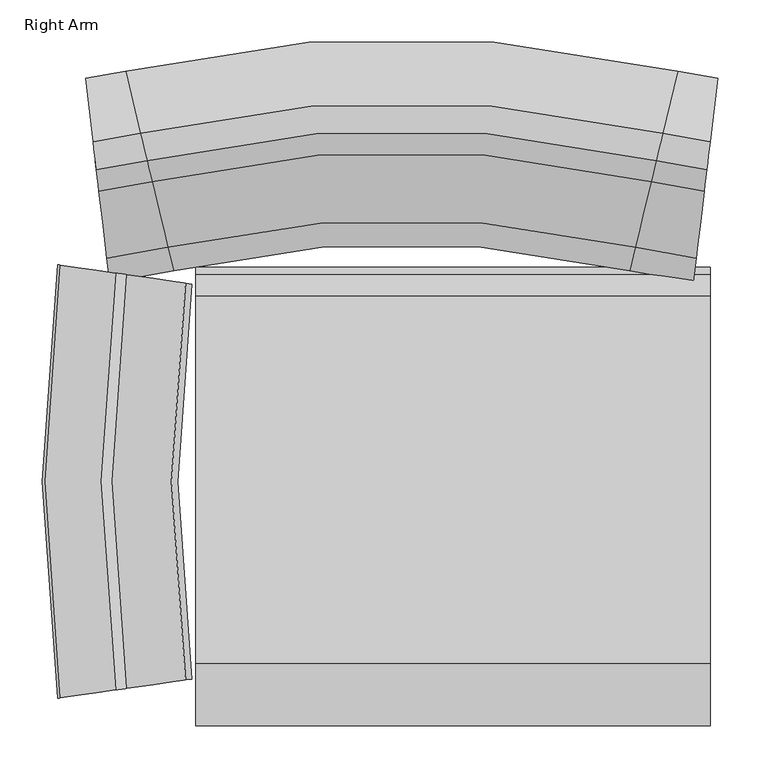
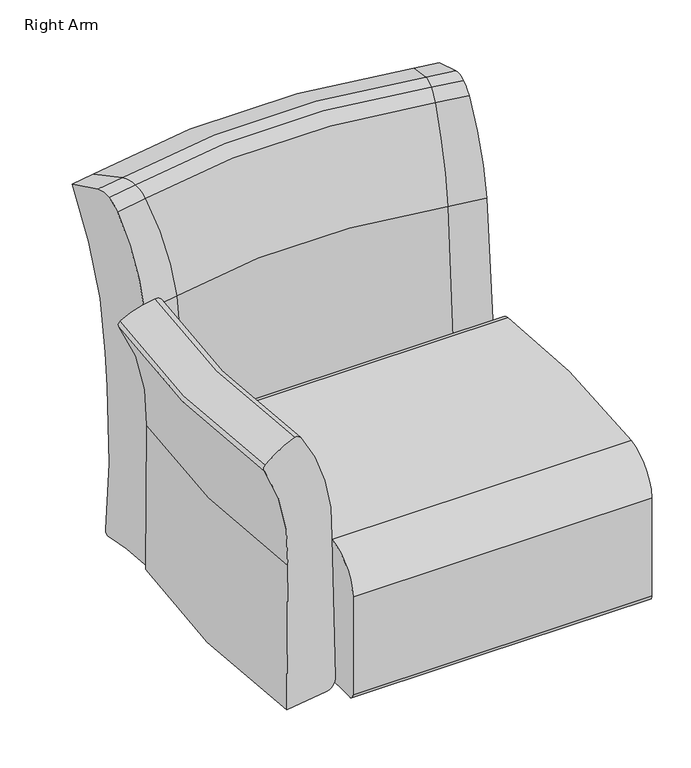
"""IFC4 building model written with IfcOpenShell, lengths in millimetres: furniture geometry, Steelcase Turnstone - Jenny - Seating - Lounge Chair : Right Arm."""

from ifc_helpers import new_model, si_unit, point, frame, frame_2d, origin, place, context, project, spatial, circle_curve, ellipse_curve, trimmed, segment, composite_curve, outline, extrude, source, transform, mapped, element, save
from ifc_brep_helpers import plane_surface, revolved_surface, advanced_brep


def right_arm_f7dc56e4(model_context):
    return source(origin(), model_context, "Body", "SolidModel", [
        advanced_brep(
        [(-292.7898126, 42.3528445, 662.4789574), (-358.2713356, 32.9674199, 631.6323761), (-360.5690311, 32.6380926, 620.5062548), (-308.2034318, 40.1436204, 393.5179242), (-310.4441561, 39.8224588, 83.0261095), (-223.20915, 52.3257962, 83.0261095), (-202.848241, 55.2441122, 105.3934367), (-210.1779101, 54.1935554, 412.3486316), (-279.7619287, 44.2201227, 657.247673), (-292.7898126, 536.0945997, 662.4789574), (-279.7619287, 534.2273214, 657.247673), (-210.1779101, 524.2538887, 412.3486316), (-202.848241, 523.203332, 105.3934367), (-223.20915, 526.121648, 83.0261095), (-310.4441561, 538.6249854, 83.0261095), (-308.2034318, 538.3038238, 393.5179242), (-360.5690311, 545.8093515, 620.5062548), (-358.2713356, 545.4800243, 631.6323761)],
        [
            (0, 1, circle_curve(frame((-256.1943064, 47.5980549, 496.8440116), z_axis=(0.1418794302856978, -0.9898839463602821, 0.0), x_axis=(-0.9898839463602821, -0.1418794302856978, 0.0)), 169.710573)),
            (1, 2, circle_curve(frame((-353.0400293, 33.7172196, 624.7246592), z_axis=(0.1418794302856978, -0.9898839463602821, 0.0), x_axis=(-0.9898839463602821, -0.1418794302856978, 0.0)), 8.6974317)),
            (2, 3, circle_curve(frame((-728.9183733, -20.157182, 414.1247817), z_axis=(-0.1418794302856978, 0.9898839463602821, 0.0), x_axis=(-0.9898839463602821, -0.1418794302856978, 0.0)), 425.5136794)),
            (3, 4, circle_curve(frame((3422.4667903, 574.8581873, 210.7875713), z_axis=(0.1418794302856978, -0.9898839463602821, 0.0), x_axis=(-0.9898839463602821, -0.1418794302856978, 0.0)), 3773.2228077)),
            (4, 5),
            (5, 6, circle_curve(frame((-223.20915, 52.3257962, 103.6673891), z_axis=(0.1418794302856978, -0.9898839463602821, 0.0), x_axis=(-0.9898839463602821, -0.1418794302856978, 0.0)), 20.6412796)),
            (6, 7, circle_curve(frame((2339.505101, 419.6379839, 320.9153954), z_axis=(-0.1418794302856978, 0.9898839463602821, 0.0), x_axis=(-0.9898839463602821, -0.1418794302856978, 0.0)), 2577.3616595)),
            (7, 8, circle_curve(frame((-616.9474144, -4.1084564, 426.9356418), z_axis=(0.1418794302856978, -0.9898839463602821, 0.0), x_axis=(-0.9898839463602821, -0.1418794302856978, 0.0)), 411.1852807)),
            (8, 0, circle_curve(frame((-290.0772968, 42.7416276, 650.2018378), z_axis=(0.1418794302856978, -0.9898839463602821, 0.0), x_axis=(-0.9898839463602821, -0.1418794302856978, 0.0)), 12.5792115)),
            (9, 10, circle_curve(frame((-290.0772968, 535.7058165, 650.2018378), z_axis=(0.1418794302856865, 0.9898839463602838, 0.0), x_axis=(-0.9898839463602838, 0.1418794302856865, 0.0)), 12.5792115)),
            (10, 11, circle_curve(frame((-616.9474144, 582.5559005, 426.9356418), z_axis=(0.1418794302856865, 0.9898839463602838, 0.0), x_axis=(-0.9898839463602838, 0.1418794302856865, 0.0)), 411.1852807)),
            (11, 12, circle_curve(frame((2339.505101, 158.8094603, 320.9153954), z_axis=(-0.1418794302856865, -0.9898839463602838, 0.0), x_axis=(-0.9898839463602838, 0.1418794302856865, 0.0)), 2577.3616595)),
            (12, 13, circle_curve(frame((-223.20915, 526.121648, 103.6673891), z_axis=(0.1418794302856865, 0.9898839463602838, 0.0), x_axis=(-0.9898839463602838, 0.1418794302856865, 0.0)), 20.6412796)),
            (13, 14),
            (14, 15, circle_curve(frame((3422.4667903, 3.5892569, 210.7875713), z_axis=(0.1418794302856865, 0.9898839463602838, 0.0), x_axis=(-0.9898839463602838, 0.1418794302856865, 0.0)), 3773.2228077)),
            (15, 16, circle_curve(frame((-728.9183733, 598.6046262, 414.1247817), z_axis=(-0.1418794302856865, -0.9898839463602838, 0.0), x_axis=(-0.9898839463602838, 0.1418794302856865, 0.0)), 425.5136794)),
            (16, 17, circle_curve(frame((-353.0400293, 544.7302245, 624.7246592), z_axis=(0.1418794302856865, 0.9898839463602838, 0.0), x_axis=(-0.9898839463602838, 0.1418794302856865, 0.0)), 8.6974317)),
            (17, 9, circle_curve(frame((-256.1943064, 530.8493893, 496.8440116), z_axis=(0.1418794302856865, 0.9898839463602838, 0.0), x_axis=(-0.9898839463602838, 0.1418794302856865, 0.0)), 169.710573)),
            (17, 1, circle_curve(frame((1429.6129209, 289.2237221, 631.6323761), z_axis=(0.0, 0.0, 1.0), x_axis=(-0.9898839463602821, -0.1418794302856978, 0.0)), 1806.1554216)),
            (0, 9, circle_curve(frame((1429.6129209, 289.2237221, 662.4789574), z_axis=(0.0, 0.0, -1.0), x_axis=(-0.9898839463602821, -0.1418794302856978, 0.0)), 1740.0047145)),
            (16, 2, circle_curve(frame((1429.6129209, 289.2237221, 620.5062548), z_axis=(0.0, 0.0, 1.0), x_axis=(-0.9898839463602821, -0.1418794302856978, 0.0)), 1808.4765982)),
            (15, 3, circle_curve(frame((1429.6129209, 289.2237221, 393.5179242), z_axis=(0.0, 0.0, 1.0), x_axis=(-0.9898839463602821, -0.1418794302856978, 0.0)), 1755.5758521)),
            (14, 4, circle_curve(frame((1429.6129209, 289.2237221, 83.0261095), z_axis=(0.0, 0.0, 1.0), x_axis=(-0.9898839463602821, -0.1418794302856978, 0.0)), 1757.8394754)),
            (13, 5, circle_curve(frame((1429.6129209, 289.2237221, 83.0261095), z_axis=(0.0, 0.0, 1.0), x_axis=(-0.9898839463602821, -0.1418794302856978, 0.0)), 1669.7129769)),
            (12, 6, circle_curve(frame((1429.6129209, 289.2237221, 105.3934367), z_axis=(0.0, 0.0, 1.0), x_axis=(-0.9898839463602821, -0.1418794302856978, 0.0)), 1649.1439909)),
            (11, 7, circle_curve(frame((1429.6129209, 289.2237221, 412.3486316), z_axis=(0.0, 0.0, 1.0), x_axis=(-0.9898839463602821, -0.1418794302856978, 0.0)), 1656.5485651)),
            (10, 8, circle_curve(frame((1429.6129209, 289.2237221, 657.247673), z_axis=(0.0, 0.0, 1.0), x_axis=(-0.9898839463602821, -0.1418794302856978, 0.0)), 1726.8436929)),
        ],
        [
            plane_surface(frame((-276.073924, 44.7487221, 0.0), z_axis=(0.1418794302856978, -0.9898839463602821, 0.0), x_axis=(0.0, 0.0, 1.0))),
            plane_surface(frame((-276.073924, 533.6987221, 0.0), z_axis=(0.1418794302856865, 0.9898839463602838, 0.0), x_axis=(0.0, 0.0, 1.0))),
            revolved_surface(trimmed(ellipse_curve(frame((-256.1943064, 47.5980549, 496.8440116), z_axis=(0.1418794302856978, -0.9898839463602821, 0.0), x_axis=(-0.9898839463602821, -0.1418794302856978, 0.0)), 169.710573, 169.710573), [point((-292.7898126, 42.3528445, 662.4789574))], [point((-358.2713356, 32.9674199, 631.6323761))], True, "CARTESIAN"), (1429.6129209, 289.2237221, 0.0), (0.0, 0.0, -1.0)),
            revolved_surface(trimmed(ellipse_curve(frame((-353.0400293, 33.7172196, 624.7246592), z_axis=(0.1418794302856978, -0.9898839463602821, 0.0), x_axis=(-0.9898839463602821, -0.1418794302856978, 0.0)), 8.6974317, 8.6974317), [point((-358.2713356, 32.9674199, 631.6323761))], [point((-360.5690311, 32.6380926, 620.5062548))], True, "CARTESIAN"), (1429.6129209, 289.2237221, 0.0), (0.0, 0.0, -1.0)),
            revolved_surface(trimmed(ellipse_curve(frame((-728.9183733, -20.157182, 414.1247817), z_axis=(-0.1418794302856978, 0.9898839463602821, 0.0), x_axis=(-0.9898839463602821, -0.1418794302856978, 0.0)), 425.5136794, 425.5136794), [point((-360.5690311, 32.6380926, 620.5062548))], [point((-308.2034318, 40.1436204, 393.5179242))], True, "CARTESIAN"), (1429.6129209, 289.2237221, 0.0), (0.0, 0.0, -1.0)),
            revolved_surface(trimmed(ellipse_curve(frame((3422.4667903, 574.8581873, 210.7875713), z_axis=(0.1418794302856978, -0.9898839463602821, 0.0), x_axis=(-0.9898839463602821, -0.1418794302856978, 0.0)), 3773.2228077, 3773.2228077), [point((-308.2034318, 40.1436204, 393.5179242))], [point((-310.4441561, 39.8224588, 83.0261095))], True, "CARTESIAN"), (1429.6129209, 289.2237221, 0.0), (0.0, 0.0, -1.0)),
            plane_surface(frame((1429.6129209, 289.2237221, 83.0261095), z_axis=(0.0, 0.0, -1.0), x_axis=(-0.9898839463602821, -0.1418794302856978, 0.0))),
            revolved_surface(trimmed(ellipse_curve(frame((-223.20915, 52.3257962, 103.6673891), z_axis=(0.1418794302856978, -0.9898839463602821, 0.0), x_axis=(-0.9898839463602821, -0.1418794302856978, 0.0)), 20.6412796, 20.6412796), [point((-223.20915, 52.3257962, 83.0261095))], [point((-202.848241, 55.2441122, 105.3934367))], True, "CARTESIAN"), (1429.6129209, 289.2237221, 0.0), (0.0, 0.0, -1.0)),
            revolved_surface(trimmed(ellipse_curve(frame((2339.505101, 419.6379839, 320.9153954), z_axis=(-0.1418794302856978, 0.9898839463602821, 0.0), x_axis=(-0.9898839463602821, -0.1418794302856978, 0.0)), 2577.3616595, 2577.3616595), [point((-202.848241, 55.2441122, 105.3934367))], [point((-210.1779101, 54.1935554, 412.3486316))], True, "CARTESIAN"), (1429.6129209, 289.2237221, 0.0), (0.0, 0.0, -1.0)),
            revolved_surface(trimmed(ellipse_curve(frame((-616.9474144, -4.1084564, 426.9356418), z_axis=(0.1418794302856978, -0.9898839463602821, 0.0), x_axis=(-0.9898839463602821, -0.1418794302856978, 0.0)), 411.1852807, 411.1852807), [point((-210.1779101, 54.1935554, 412.3486316))], [point((-279.7619287, 44.2201227, 657.247673))], True, "CARTESIAN"), (1429.6129209, 289.2237221, 0.0), (0.0, 0.0, -1.0)),
            revolved_surface(trimmed(ellipse_curve(frame((-290.0772968, 42.7416276, 650.2018378), z_axis=(0.1418794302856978, -0.9898839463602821, 0.0), x_axis=(-0.9898839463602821, -0.1418794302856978, 0.0)), 12.5792115, 12.5792115), [point((-279.7619287, 44.2201227, 657.247673))], [point((-292.7898126, 42.3528445, 662.4789574))], True, "CARTESIAN"), (1429.6129209, 289.2237221, 0.0), (0.0, 0.0, -1.0)),
        ],
        [
            (0, [[1, 2, 3, 4, 5, 6, 7, 8, 9]]),
            (1, [[10, 11, 12, 13, 14, 15, 16, 17, 18]]),
            (2, [[19, -1, 20, -18]]),
            (3, [[21, -2, -19, -17]]),
            (4, [[22, -3, -21, -16]]),
            (5, [[23, -4, -22, -15]]),
            (6, [[24, -5, -23, -14]]),
            (7, [[25, -6, -24, -13]]),
            (8, [[26, -7, -25, -12]]),
            (9, [[27, -8, -26, -11]]),
            (10, [[-20, -9, -27, -10]]),
        ],
    ),
        extrude(outline(composite_curve([segment(trimmed(circle_curve(frame_2d((295.9448235, -1001.9734672)), 1409.8455938), [point((73.6948235, 390.2440215))], [point((509.3958902, 391.6201753))], False, "CARTESIAN"), True, "CONTINUOUS"), segment(trimmed(circle_curve(frame_2d((504.9855283, 362.825509)), 29.1304669), [point((509.3958902, 391.6201753))], [point((533.8942756, 366.4127691))], False, "CARTESIAN"), True, "CONTINUOUS"), segment(trimmed(circle_curve(frame_2d((-629.8512072, 222.0046519)), 1172.6709909), [point((533.8942756, 366.4127691))], [point((536.0042378, 95.7575362))], False, "CARTESIAN"), True, "CONTINUOUS"), segment(trimmed(circle_curve(frame_2d((523.173628, 97.1469259)), 12.9056171), [point((536.0042378, 95.7575362))], [point((523.4804674, 84.244957))], False, "CARTESIAN"), True, "CONTINUOUS"), segment(trimmed(circle_curve(frame_2d((320.8347088, 8605.0850806)), 8523.249481), [point((523.4804674, 84.244957))], [point((12.6556229, 87.4089088))], False, "CARTESIAN"), True, "CONTINUOUS"), segment(trimmed(circle_curve(frame_2d((13.132469, 100.5883266)), 13.1880413), [point((12.6556229, 87.4089088))], [point((0.0, 99.3789084))], False, "CARTESIAN"), True, "CONTINUOUS"), segment(trimmed(circle_curve(frame_2d((1151.5533041, 205.4297595)), 1156.4263034), [point((0.0, 99.3789084))], [point((0.0, 311.4806107))], False, "CARTESIAN"), True, "CONTINUOUS"), segment(trimmed(circle_curve(frame_2d((87.555619, 303.4172862)), 87.9261259), [point((0.0, 311.4806107))], [point((73.6948235, 390.2440215))], False, "CARTESIAN"), True, "CONTINUOUS")], self_intersect=False)), frame((-198.12, 0.0, 0.0), z_axis=(1.0, 0.0, 0.0), x_axis=(0.0, 1.0, 0.0)), (0.0, 0.0, 1.0), 609.6),
        advanced_brep(
        [(-319.566616, 691.4565759, 813.9027777), (-328.4381434, 766.5452606, 782.2939395), (-316.928411, 669.1267858, 474.5451921), (-316.2334589, 663.244705, 404.1661408), (-315.6570167, 658.3656933, 241.4197302), (-316.8946384, 668.8409343, 92.210125), (-315.6754165, 658.5214293, 82.3084573), (-303.2809614, 553.6146536, 81.9987921), (-300.9802803, 534.1416683, 97.0710008), (-303.2942051, 553.7267481, 627.8736036), (-312.6808193, 633.1751322, 797.7221008), (-315.6530638, 658.3322355, 814.4538477), (-281.2467617, 774.979302, 782.2939395), (-263.5601577, 701.4660474, 813.9027777), (-258.300535, 679.604757, 474.5451921), (-256.9150528, 673.8460877, 404.1661408), (-255.7658364, 669.0694421, 241.4197302), (-258.2332047, 679.3249029, 92.210125), (-255.8025189, 669.2219106, 82.3084573), (-231.0924763, 566.5161761, 81.9987921), (-226.5057535, 547.451752, 97.0710008), (-231.1188793, 566.6259188, 627.8736036), (-249.8323794, 644.4074023, 797.7221008), (-255.7579556, 669.0366863, 814.4538477), (372.6867617, 774.979302, 782.2939395), (355.0001577, 701.4660474, 813.9027777), (349.740535, 679.604757, 474.5451921), (348.3550528, 673.8460877, 404.1661408), (347.2058364, 669.0694421, 241.4197302), (349.6732047, 679.3249029, 92.210125), (347.2425189, 669.2219106, 82.3084573), (322.5324763, 566.5161761, 81.9987921), (317.9457535, 547.451752, 97.0710008), (322.5588793, 566.6259188, 627.8736036), (341.2723794, 644.4074023, 797.7221008), (347.1979556, 669.0366863, 814.4538477), (411.006616, 691.4565759, 813.9027777), (407.0930638, 658.3322355, 814.4538477), (404.1208193, 633.1751322, 797.7221008), (394.7342051, 553.7267481, 627.8736036), (392.4202803, 534.1416683, 97.0710008), (394.7209614, 553.6146536, 81.9987921), (407.1154165, 658.5214293, 82.3084573), (408.3346384, 668.8409343, 92.210125), (407.0970167, 658.3656933, 241.4197302), (407.6734589, 663.244705, 404.1661408), (408.368411, 669.1267858, 474.5451921), (419.8781434, 766.5452606, 782.2939395)],
        [
            (0, 1, circle_curve(frame((-295.4061096, 486.9618391, 215.0940543), z_axis=(-0.9930928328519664, -0.11733126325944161, 0.0), x_axis=(-0.11733126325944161, 0.9930928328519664, 0.0)), 633.2248531)),
            (1, 2, circle_curve(frame((-396.2289126, 1340.3269208, 428.618251), z_axis=(0.9930928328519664, 0.11733126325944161, 0.0), x_axis=(-0.11733126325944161, 0.9930928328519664, 0.0)), 677.4270991)),
            (2, 3, circle_curve(frame((-60.3516484, -1502.5411649, 623.1418041), z_axis=(-0.9930928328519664, -0.11733126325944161, 0.0), x_axis=(-0.11733126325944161, 0.9930928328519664, 0.0)), 2191.8152925)),
            (3, 4, circle_curve(frame((-452.3232857, 1815.1101831, 287.7047166), z_axis=(0.9930928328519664, 0.11733126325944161, 0.0), x_axis=(-0.11733126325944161, 0.9930928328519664, 0.0)), 1165.7091335)),
            (4, 5, circle_curve(frame((-599.8381159, 3063.6769889, 337.6638027), z_axis=(0.9930928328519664, 0.11733126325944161, 0.0), x_axis=(-0.11733126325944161, 0.9930928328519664, 0.0)), 2423.9521958)),
            (5, 6, circle_curve(frame((-315.8343466, 659.8666153, 91.290321), z_axis=(-0.9930928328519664, -0.11733126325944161, 0.0), x_axis=(-0.11733126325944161, 0.9930928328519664, 0.0)), 9.0834278)),
            (6, 7, circle_curve(frame((-309.5963018, 607.0677497, -261.2499371), z_axis=(0.9930928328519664, 0.11733126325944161, 0.0), x_axis=(-0.11733126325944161, 0.9930928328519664, 0.0)), 347.443243)),
            (7, 8, circle_curve(frame((-302.9708883, 550.9901919, 98.8517567), z_axis=(-0.9930928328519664, -0.11733126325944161, 0.0), x_axis=(-0.11733126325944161, 0.9930928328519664, 0.0)), 17.0589085)),
            (8, 9, circle_curve(frame((-520.3989152, 2391.3029031, 293.3582769), z_axis=(-0.9930928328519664, -0.11733126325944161, 0.0), x_axis=(-0.11733126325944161, 0.9930928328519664, 0.0)), 1880.3513194)),
            (9, 10, circle_curve(frame((-345.2433635, 908.7847898, 563.2382651), z_axis=(-0.9930928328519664, -0.11733126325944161, 0.0), x_axis=(-0.11733126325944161, 0.9930928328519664, 0.0)), 363.3230957)),
            (10, 11, circle_curve(frame((-317.5105214, 674.0537729, 762.9432742), z_axis=(-0.9930928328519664, -0.11733126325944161, 0.0), x_axis=(-0.11733126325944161, 0.9930928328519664, 0.0)), 53.8883667)),
            (11, 0, circle_curve(frame((-317.5105214, 674.0537729, 762.9432742), z_axis=(-0.9930928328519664, -0.11733126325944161, 0.0), x_axis=(-0.11733126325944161, 0.9930928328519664, 0.0)), 53.8883667)),
            (12, 1, circle_curve(frame((-375.9317332, 1168.5314176, 782.2939395), z_axis=(0.0, 0.0, -1.0), x_axis=(0.1173312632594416, -0.9930928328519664, 0.0)), 404.7820543)),
            (0, 13, circle_curve(frame((-375.9317332, 1168.5314176, 813.9027777), z_axis=(0.0, 0.0, 1.0), x_axis=(0.1173312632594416, -0.9930928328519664, 0.0)), 480.3929964)),
            (13, 12, circle_curve(frame((-215.3928813, 501.2617994, 215.0940543), z_axis=(-0.9722568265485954, -0.23391593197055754, 0.0), x_axis=(-0.23391593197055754, 0.9722568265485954, 0.0)), 633.2248531)),
            (14, 2, circle_curve(frame((-375.9317332, 1168.5314176, 474.5451921), z_axis=(0.0, 0.0, -1.0), x_axis=(0.1173312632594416, -0.9930928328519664, 0.0)), 502.8780948)),
            (12, 14, circle_curve(frame((-416.3969383, 1336.7224922, 428.618251), z_axis=(0.9722568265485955, 0.2339159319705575, 0.0), x_axis=(-0.2339159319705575, 0.9722568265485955, 0.0)), 677.4270991)),
            (15, 3, circle_curve(frame((-375.9317332, 1168.5314176, 404.1661408), z_axis=(0.0, 0.0, -1.0), x_axis=(0.1173312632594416, -0.9930928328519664, 0.0)), 508.8010867)),
            (14, 15, circle_curve(frame((253.220358, -1446.4995912, 623.1418041), z_axis=(-0.9722568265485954, -0.2339159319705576, 0.0), x_axis=(-0.2339159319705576, 0.9722568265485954, 0.0)), 2191.8152925)),
            (16, 4, circle_curve(frame((-375.9317332, 1168.5314176, 241.4197302), z_axis=(0.0, 0.0, -1.0), x_axis=(0.1173312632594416, -0.9930928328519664, 0.0)), 513.714033)),
            (15, 16, circle_curve(frame((-528.2287486, 1801.5443625, 287.7047166), z_axis=(0.9722568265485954, 0.23391593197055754, 0.0), x_axis=(-0.23391593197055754, 0.9722568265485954, 0.0)), 1165.7091335)),
            (17, 5, circle_curve(frame((-375.9317332, 1168.5314176, 92.210125), z_axis=(0.0, 0.0, -1.0), x_axis=(0.1173312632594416, -0.9930928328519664, 0.0)), 503.1659344)),
            (16, 17, circle_curve(frame((-822.3197524, 3023.9150817, 337.6638027), z_axis=(0.9722568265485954, 0.23391593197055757, 0.0), x_axis=(-0.23391593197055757, 0.9722568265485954, 0.0)), 2423.9521958)),
            (18, 6, circle_curve(frame((-375.9317332, 1168.5314176, 82.3084573), z_axis=(0.0, 0.0, -1.0), x_axis=(0.1173312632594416, -0.9930928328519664, 0.0)), 513.5572138)),
            (17, 18, circle_curve(frame((-256.1193678, 670.5388734, 91.290321), z_axis=(-0.9722568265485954, -0.23391593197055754, 0.0), x_axis=(-0.23391593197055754, 0.9722568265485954, 0.0)), 9.0834278)),
            (19, 7, circle_curve(frame((-375.9317332, 1168.5314176, 81.9987921), z_axis=(0.0, 0.0, -1.0), x_axis=(0.1173312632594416, -0.9930928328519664, 0.0)), 619.193638)),
            (18, 19, circle_curve(frame((-243.6829717, 618.8477768, -261.2499371), z_axis=(0.9722568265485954, 0.23391593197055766, 0.0), x_axis=(-0.23391593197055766, 0.9722568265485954, 0.0)), 347.443243)),
            (20, 8, circle_curve(frame((-375.9317332, 1168.5314176, 97.0710008), z_axis=(0.0, 0.0, -1.0), x_axis=(0.1173312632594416, -0.9930928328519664, 0.0)), 638.8020619)),
            (19, 20, circle_curve(frame((-230.474303, 563.9467781, 98.8517567), z_axis=(-0.9722568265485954, -0.23391593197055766, 0.0), x_axis=(-0.23391593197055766, 0.9722568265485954, 0.0)), 17.0589085)),
            (21, 9, circle_curve(frame((-375.9317332, 1168.5314176, 627.8736036), z_axis=(0.0, 0.0, -1.0), x_axis=(0.1173312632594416, -0.9930928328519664, 0.0)), 619.0807637)),
            (20, 21, circle_curve(frame((-663.9468332, 2365.6480262, 293.3582769), z_axis=(-0.9722568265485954, -0.2339159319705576, 0.0), x_axis=(-0.2339159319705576, 0.9722568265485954, 0.0)), 1880.3513194)),
            (22, 10, circle_curve(frame((-375.9317332, 1168.5314176, 797.7221008), z_axis=(0.0, 0.0, -1.0), x_axis=(0.1173312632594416, -0.9930928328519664, 0.0)), 539.0797997)),
            (21, 22, circle_curve(frame((-314.7502681, 914.2345144, 563.2382651), z_axis=(-0.9722568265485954, -0.23391593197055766, 0.0), x_axis=(-0.23391593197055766, 0.9722568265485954, 0.0)), 363.3230957)),
            (23, 11, circle_curve(frame((-375.9317332, 1168.5314176, 814.4538477), z_axis=(0.0, 0.0, -1.0), x_axis=(0.1173312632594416, -0.9930928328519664, 0.0)), 513.7477235)),
            (22, 23, circle_curve(frame((-259.4610516, 684.4283713, 762.9432742), z_axis=(-0.9722568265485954, -0.23391593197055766, 0.0), x_axis=(-0.23391593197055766, 0.9722568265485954, 0.0)), 53.8883667)),
            (23, 13, circle_curve(frame((-259.4610516, 684.4283713, 762.9432742), z_axis=(-0.9722568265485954, -0.23391593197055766, 0.0), x_axis=(-0.23391593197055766, 0.9722568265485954, 0.0)), 53.8883667)),
            (24, 12, circle_curve(frame((45.72, -584.0374329, 782.2939395), z_axis=(0.0, 0.0, 1.0), x_axis=(-0.23391593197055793, 0.9722568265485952, 0.0)), 1397.7960327)),
            (13, 25, circle_curve(frame((45.72, -584.0374329, 813.9027777), z_axis=(0.0, 0.0, -1.0), x_axis=(-0.23391593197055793, 0.9722568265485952, 0.0)), 1322.1850906)),
            (25, 24, circle_curve(frame((306.8328813, 501.2617994, 215.0940543), z_axis=(-0.972256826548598, 0.23391593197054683, 0.0), x_axis=(0.23391593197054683, 0.972256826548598, 0.0)), 633.2248531)),
            (26, 14, circle_curve(frame((45.72, -584.0374329, 474.5451921), z_axis=(0.0, 0.0, 1.0), x_axis=(-0.23391593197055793, 0.9722568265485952, 0.0)), 1299.6999922)),
            (24, 26, circle_curve(frame((507.8369383, 1336.7224922, 428.618251), z_axis=(0.9722568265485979, -0.23391593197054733, 0.0), x_axis=(0.23391593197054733, 0.9722568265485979, 0.0)), 677.4270991)),
            (27, 15, circle_curve(frame((45.72, -584.0374329, 404.1661408), z_axis=(0.0, 0.0, 1.0), x_axis=(-0.23391593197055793, 0.9722568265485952, 0.0)), 1293.7770003)),
            (26, 27, circle_curve(frame((-161.780358, -1446.4995912, 623.1418041), z_axis=(-0.9722568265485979, 0.23391593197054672, 0.0), x_axis=(0.23391593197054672, 0.9722568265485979, 0.0)), 2191.8152925)),
            (28, 16, circle_curve(frame((45.72, -584.0374329, 241.4197302), z_axis=(0.0, 0.0, 1.0), x_axis=(-0.23391593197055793, 0.9722568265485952, 0.0)), 1288.864054)),
            (27, 28, circle_curve(frame((619.6687486, 1801.5443625, 287.7047166), z_axis=(0.972256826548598, -0.23391593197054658, 0.0), x_axis=(0.23391593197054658, 0.972256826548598, 0.0)), 1165.7091335)),
            (29, 17, circle_curve(frame((45.72, -584.0374329, 92.210125), z_axis=(0.0, 0.0, 1.0), x_axis=(-0.23391593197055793, 0.9722568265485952, 0.0)), 1299.4121525)),
            (28, 29, circle_curve(frame((913.7597524, 3023.9150817, 337.6638027), z_axis=(0.9722568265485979, -0.23391593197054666, 0.0), x_axis=(0.23391593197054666, 0.9722568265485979, 0.0)), 2423.9521958)),
            (30, 18, circle_curve(frame((45.72, -584.0374329, 82.3084573), z_axis=(0.0, 0.0, 1.0), x_axis=(-0.23391593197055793, 0.9722568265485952, 0.0)), 1289.0208732)),
            (29, 30, circle_curve(frame((347.5593678, 670.5388734, 91.290321), z_axis=(-0.9722568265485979, 0.23391593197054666, 0.0), x_axis=(0.23391593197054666, 0.9722568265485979, 0.0)), 9.0834278)),
            (31, 19, circle_curve(frame((45.72, -584.0374329, 81.9987921), z_axis=(0.0, 0.0, 1.0), x_axis=(-0.23391593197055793, 0.9722568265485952, 0.0)), 1183.384449)),
            (30, 31, circle_curve(frame((335.1229717, 618.8477768, -261.2499371), z_axis=(0.972256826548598, -0.23391593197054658, 0.0), x_axis=(0.23391593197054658, 0.972256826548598, 0.0)), 347.443243)),
            (32, 20, circle_curve(frame((45.72, -584.0374329, 97.0710008), z_axis=(0.0, 0.0, 1.0), x_axis=(-0.23391593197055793, 0.9722568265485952, 0.0)), 1163.776025)),
            (31, 32, circle_curve(frame((321.914303, 563.9467781, 98.8517567), z_axis=(-0.9722568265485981, 0.23391593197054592, 0.0), x_axis=(0.23391593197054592, 0.9722568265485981, 0.0)), 17.0589085)),
            (33, 21, circle_curve(frame((45.72, -584.0374329, 627.8736036), z_axis=(0.0, 0.0, 1.0), x_axis=(-0.23391593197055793, 0.9722568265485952, 0.0)), 1183.4973232)),
            (32, 33, circle_curve(frame((755.3868332, 2365.6480262, 293.3582769), z_axis=(-0.9722568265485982, 0.23391593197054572, 0.0), x_axis=(0.23391593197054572, 0.9722568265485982, 0.0)), 1880.3513194)),
            (34, 22, circle_curve(frame((45.72, -584.0374329, 797.7221008), z_axis=(0.0, 0.0, 1.0), x_axis=(-0.23391593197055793, 0.9722568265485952, 0.0)), 1263.4982873)),
            (33, 34, circle_curve(frame((406.1902681, 914.2345144, 563.2382651), z_axis=(-0.9722568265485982, 0.23391593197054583, 0.0), x_axis=(0.23391593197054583, 0.9722568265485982, 0.0)), 363.3230957)),
            (35, 23, circle_curve(frame((45.72, -584.0374329, 814.4538477), z_axis=(0.0, 0.0, 1.0), x_axis=(-0.23391593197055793, 0.9722568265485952, 0.0)), 1288.8303635)),
            (34, 35, circle_curve(frame((350.9010516, 684.4283713, 762.9432742), z_axis=(-0.972256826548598, 0.23391593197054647, 0.0), x_axis=(0.23391593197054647, 0.972256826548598, 0.0)), 53.8883667)),
            (35, 25, circle_curve(frame((350.9010516, 684.4283713, 762.9432742), z_axis=(-0.972256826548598, 0.23391593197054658, 0.0), x_axis=(0.23391593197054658, 0.972256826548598, 0.0)), 53.8883667)),
            (36, 37, circle_curve(frame((408.9505214, 674.0537729, 762.9432742), z_axis=(0.9930928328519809, -0.11733126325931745, 0.0), x_axis=(0.11733126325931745, 0.9930928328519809, 0.0)), 53.8883667)),
            (37, 38, circle_curve(frame((408.9505214, 674.0537729, 762.9432742), z_axis=(0.9930928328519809, -0.11733126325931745, 0.0), x_axis=(0.11733126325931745, 0.9930928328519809, 0.0)), 53.8883667)),
            (38, 39, circle_curve(frame((436.6833635, 908.7847898, 563.2382651), z_axis=(0.9930928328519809, -0.11733126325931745, 0.0), x_axis=(0.11733126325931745, 0.9930928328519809, 0.0)), 363.3230957)),
            (39, 40, circle_curve(frame((611.8389152, 2391.3029031, 293.3582769), z_axis=(0.9930928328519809, -0.11733126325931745, 0.0), x_axis=(0.11733126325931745, 0.9930928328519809, 0.0)), 1880.3513194)),
            (40, 41, circle_curve(frame((394.4108883, 550.9901919, 98.8517567), z_axis=(0.9930928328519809, -0.11733126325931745, 0.0), x_axis=(0.11733126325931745, 0.9930928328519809, 0.0)), 17.0589085)),
            (41, 42, circle_curve(frame((401.0363018, 607.0677497, -261.2499371), z_axis=(-0.9930928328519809, 0.11733126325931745, 0.0), x_axis=(0.11733126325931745, 0.9930928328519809, 0.0)), 347.443243)),
            (42, 43, circle_curve(frame((407.2743466, 659.8666153, 91.290321), z_axis=(0.9930928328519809, -0.11733126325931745, 0.0), x_axis=(0.11733126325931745, 0.9930928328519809, 0.0)), 9.0834278)),
            (43, 44, circle_curve(frame((691.2781159, 3063.6769889, 337.6638027), z_axis=(-0.9930928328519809, 0.11733126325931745, 0.0), x_axis=(0.11733126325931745, 0.9930928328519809, 0.0)), 2423.9521958)),
            (44, 45, circle_curve(frame((543.7632857, 1815.1101831, 287.7047166), z_axis=(-0.9930928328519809, 0.11733126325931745, 0.0), x_axis=(0.11733126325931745, 0.9930928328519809, 0.0)), 1165.7091335)),
            (45, 46, circle_curve(frame((151.7916484, -1502.5411649, 623.1418041), z_axis=(0.9930928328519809, -0.11733126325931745, 0.0), x_axis=(0.11733126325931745, 0.9930928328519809, 0.0)), 2191.8152925)),
            (46, 47, circle_curve(frame((487.6689126, 1340.3269208, 428.618251), z_axis=(-0.9930928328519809, 0.11733126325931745, 0.0), x_axis=(0.11733126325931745, 0.9930928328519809, 0.0)), 677.4270991)),
            (47, 36, circle_curve(frame((386.8461096, 486.9618391, 215.0940543), z_axis=(0.9930928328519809, -0.11733126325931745, 0.0), x_axis=(0.11733126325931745, 0.9930928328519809, 0.0)), 633.2248531)),
            (47, 24, circle_curve(frame((467.3717332, 1168.5314176, 782.2939395), z_axis=(0.0, 0.0, -1.0), x_axis=(-0.2339159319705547, -0.972256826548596, 0.0)), 404.7820543)),
            (25, 36, circle_curve(frame((467.3717332, 1168.5314176, 813.9027777), z_axis=(0.0, 0.0, 1.0), x_axis=(-0.2339159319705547, -0.972256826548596, 0.0)), 480.3929964)),
            (46, 26, circle_curve(frame((467.3717332, 1168.5314176, 474.5451921), z_axis=(0.0, 0.0, -1.0), x_axis=(-0.2339159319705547, -0.972256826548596, 0.0)), 502.8780948)),
            (45, 27, circle_curve(frame((467.3717332, 1168.5314176, 404.1661408), z_axis=(0.0, 0.0, -1.0), x_axis=(-0.2339159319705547, -0.972256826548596, 0.0)), 508.8010867)),
            (44, 28, circle_curve(frame((467.3717332, 1168.5314176, 241.4197302), z_axis=(0.0, 0.0, -1.0), x_axis=(-0.2339159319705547, -0.972256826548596, 0.0)), 513.714033)),
            (43, 29, circle_curve(frame((467.3717332, 1168.5314176, 92.210125), z_axis=(0.0, 0.0, -1.0), x_axis=(-0.2339159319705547, -0.972256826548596, 0.0)), 503.1659344)),
            (42, 30, circle_curve(frame((467.3717332, 1168.5314176, 82.3084573), z_axis=(0.0, 0.0, -1.0), x_axis=(-0.2339159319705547, -0.972256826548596, 0.0)), 513.5572138)),
            (41, 31, circle_curve(frame((467.3717332, 1168.5314176, 81.9987921), z_axis=(0.0, 0.0, -1.0), x_axis=(-0.2339159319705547, -0.972256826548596, 0.0)), 619.193638)),
            (40, 32, circle_curve(frame((467.3717332, 1168.5314176, 97.0710008), z_axis=(0.0, 0.0, -1.0), x_axis=(-0.2339159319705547, -0.972256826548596, 0.0)), 638.8020619)),
            (39, 33, circle_curve(frame((467.3717332, 1168.5314176, 627.8736036), z_axis=(0.0, 0.0, -1.0), x_axis=(-0.2339159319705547, -0.972256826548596, 0.0)), 619.0807637)),
            (38, 34, circle_curve(frame((467.3717332, 1168.5314176, 797.7221008), z_axis=(0.0, 0.0, -1.0), x_axis=(-0.2339159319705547, -0.972256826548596, 0.0)), 539.0797997)),
            (37, 35, circle_curve(frame((467.3717332, 1168.5314176, 814.4538477), z_axis=(0.0, 0.0, -1.0), x_axis=(-0.2339159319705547, -0.972256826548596, 0.0)), 513.7477235)),
        ],
        [
            plane_surface(frame((-309.88, 609.4689735, 0.0), z_axis=(-0.9930928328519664, -0.11733126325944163, 0.0), x_axis=(0.0, 0.0, 1.0))),
            revolved_surface(trimmed(ellipse_curve(frame((-295.4061096, 486.9618391, 215.0940543), z_axis=(-0.9930928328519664, -0.11733126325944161, 0.0), x_axis=(-0.11733126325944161, 0.9930928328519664, 0.0)), 633.2248531, 633.2248531), [point((-319.566616, 691.4565759, 813.9027777))], [point((-328.4381434, 766.5452606, 782.2939395))], True, "CARTESIAN"), (-375.9317332, 1168.5314176, 0.0), (0.0, 0.0, 1.0)),
            revolved_surface(trimmed(ellipse_curve(frame((-396.2289126, 1340.3269208, 428.618251), z_axis=(0.9930928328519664, 0.11733126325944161, 0.0), x_axis=(-0.11733126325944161, 0.9930928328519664, 0.0)), 677.4270991, 677.4270991), [point((-328.4381434, 766.5452606, 782.2939395))], [point((-316.928411, 669.1267858, 474.5451921))], True, "CARTESIAN"), (-375.9317332, 1168.5314176, 0.0), (0.0, 0.0, 1.0)),
            revolved_surface(trimmed(ellipse_curve(frame((-60.3516484, -1502.5411649, 623.1418041), z_axis=(-0.9930928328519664, -0.11733126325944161, 0.0), x_axis=(-0.11733126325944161, 0.9930928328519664, 0.0)), 2191.8152925, 2191.8152925), [point((-316.928411, 669.1267858, 474.5451921))], [point((-316.2334589, 663.244705, 404.1661408))], True, "CARTESIAN"), (-375.9317332, 1168.5314176, 0.0), (0.0, 0.0, 1.0)),
            revolved_surface(trimmed(ellipse_curve(frame((-452.3232857, 1815.1101831, 287.7047166), z_axis=(0.9930928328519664, 0.11733126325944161, 0.0), x_axis=(-0.11733126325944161, 0.9930928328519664, 0.0)), 1165.7091335, 1165.7091335), [point((-316.2334589, 663.244705, 404.1661408))], [point((-315.6570167, 658.3656933, 241.4197302))], True, "CARTESIAN"), (-375.9317332, 1168.5314176, 0.0), (0.0, 0.0, 1.0)),
            revolved_surface(trimmed(ellipse_curve(frame((-599.8381159, 3063.6769889, 337.6638027), z_axis=(0.9930928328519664, 0.11733126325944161, 0.0), x_axis=(-0.11733126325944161, 0.9930928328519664, 0.0)), 2423.9521958, 2423.9521958), [point((-315.6570167, 658.3656933, 241.4197302))], [point((-316.8946384, 668.8409343, 92.210125))], True, "CARTESIAN"), (-375.9317332, 1168.5314176, 0.0), (0.0, 0.0, 1.0)),
            revolved_surface(trimmed(ellipse_curve(frame((-315.8343466, 659.8666153, 91.290321), z_axis=(-0.9930928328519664, -0.11733126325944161, 0.0), x_axis=(-0.11733126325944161, 0.9930928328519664, 0.0)), 9.0834278, 9.0834278), [point((-316.8946384, 668.8409343, 92.210125))], [point((-315.6754165, 658.5214293, 82.3084573))], True, "CARTESIAN"), (-375.9317332, 1168.5314176, 0.0), (0.0, 0.0, 1.0)),
            revolved_surface(trimmed(ellipse_curve(frame((-309.5963018, 607.0677497, -261.2499371), z_axis=(0.9930928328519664, 0.11733126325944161, 0.0), x_axis=(-0.11733126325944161, 0.9930928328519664, 0.0)), 347.443243, 347.443243), [point((-315.6754165, 658.5214293, 82.3084573))], [point((-303.2809614, 553.6146536, 81.9987921))], True, "CARTESIAN"), (-375.9317332, 1168.5314176, 0.0), (0.0, 0.0, 1.0)),
            revolved_surface(trimmed(ellipse_curve(frame((-302.9708883, 550.9901919, 98.8517567), z_axis=(-0.9930928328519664, -0.11733126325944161, 0.0), x_axis=(-0.11733126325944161, 0.9930928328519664, 0.0)), 17.0589085, 17.0589085), [point((-303.2809614, 553.6146536, 81.9987921))], [point((-300.9802803, 534.1416683, 97.0710008))], True, "CARTESIAN"), (-375.9317332, 1168.5314176, 0.0), (0.0, 0.0, 1.0)),
            revolved_surface(trimmed(ellipse_curve(frame((-520.3989152, 2391.3029031, 293.3582769), z_axis=(-0.9930928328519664, -0.11733126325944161, 0.0), x_axis=(-0.11733126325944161, 0.9930928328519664, 0.0)), 1880.3513194, 1880.3513194), [point((-300.9802803, 534.1416683, 97.0710008))], [point((-303.2942051, 553.7267481, 627.8736036))], True, "CARTESIAN"), (-375.9317332, 1168.5314176, 0.0), (0.0, 0.0, 1.0)),
            revolved_surface(trimmed(ellipse_curve(frame((-345.2433635, 908.7847898, 563.2382651), z_axis=(-0.9930928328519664, -0.11733126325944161, 0.0), x_axis=(-0.11733126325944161, 0.9930928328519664, 0.0)), 363.3230957, 363.3230957), [point((-303.2942051, 553.7267481, 627.8736036))], [point((-312.6808193, 633.1751322, 797.7221008))], True, "CARTESIAN"), (-375.9317332, 1168.5314176, 0.0), (0.0, 0.0, 1.0)),
            revolved_surface(trimmed(ellipse_curve(frame((-317.5105214, 674.0537729, 762.9432742), z_axis=(-0.9930928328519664, -0.11733126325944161, 0.0), x_axis=(-0.11733126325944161, 0.9930928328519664, 0.0)), 53.8883667, 53.8883667), [point((-312.6808193, 633.1751322, 797.7221008))], [point((-315.6530638, 658.3322355, 814.4538477))], True, "CARTESIAN"), (-375.9317332, 1168.5314176, 0.0), (0.0, 0.0, 1.0)),
            revolved_surface(trimmed(ellipse_curve(frame((-317.5105214, 674.0537729, 762.9432742), z_axis=(-0.9930928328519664, -0.11733126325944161, 0.0), x_axis=(-0.11733126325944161, 0.9930928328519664, 0.0)), 53.8883667, 53.8883667), [point((-315.6530638, 658.3322355, 814.4538477))], [point((-319.566616, 691.4565759, 813.9027777))], True, "CARTESIAN"), (-375.9317332, 1168.5314176, 0.0), (0.0, 0.0, 1.0)),
            revolved_surface(trimmed(ellipse_curve(frame((-215.3928813, 501.2617994, 215.0940543), z_axis=(-0.9722568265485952, -0.23391593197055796, 0.0), x_axis=(-0.23391593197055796, 0.9722568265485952, 0.0)), 633.2248531, 633.2248531), [point((-263.5601577, 701.4660474, 813.9027777))], [point((-281.2467617, 774.979302, 782.2939395))], True, "CARTESIAN"), (45.72, -584.0374329, 0.0), (0.0, 0.0, -1.0)),
            revolved_surface(trimmed(ellipse_curve(frame((-416.3969383, 1336.7224922, 428.618251), z_axis=(0.9722568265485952, 0.23391593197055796, 0.0), x_axis=(-0.23391593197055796, 0.9722568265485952, 0.0)), 677.4270991, 677.4270991), [point((-281.2467617, 774.979302, 782.2939395))], [point((-258.300535, 679.604757, 474.5451921))], True, "CARTESIAN"), (45.72, -584.0374329, 0.0), (0.0, 0.0, -1.0)),
            revolved_surface(trimmed(ellipse_curve(frame((253.220358, -1446.4995912, 623.1418041), z_axis=(-0.9722568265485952, -0.23391593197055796, 0.0), x_axis=(-0.23391593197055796, 0.9722568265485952, 0.0)), 2191.8152925, 2191.8152925), [point((-258.300535, 679.604757, 474.5451921))], [point((-256.9150528, 673.8460877, 404.1661408))], True, "CARTESIAN"), (45.72, -584.0374329, 0.0), (0.0, 0.0, -1.0)),
            revolved_surface(trimmed(ellipse_curve(frame((-528.2287486, 1801.5443625, 287.7047166), z_axis=(0.9722568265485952, 0.23391593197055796, 0.0), x_axis=(-0.23391593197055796, 0.9722568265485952, 0.0)), 1165.7091335, 1165.7091335), [point((-256.9150528, 673.8460877, 404.1661408))], [point((-255.7658364, 669.0694421, 241.4197302))], True, "CARTESIAN"), (45.72, -584.0374329, 0.0), (0.0, 0.0, -1.0)),
            revolved_surface(trimmed(ellipse_curve(frame((-822.3197524, 3023.9150817, 337.6638027), z_axis=(0.9722568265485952, 0.23391593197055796, 0.0), x_axis=(-0.23391593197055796, 0.9722568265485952, 0.0)), 2423.9521958, 2423.9521958), [point((-255.7658364, 669.0694421, 241.4197302))], [point((-258.2332047, 679.3249029, 92.210125))], True, "CARTESIAN"), (45.72, -584.0374329, 0.0), (0.0, 0.0, -1.0)),
            revolved_surface(trimmed(ellipse_curve(frame((-256.1193678, 670.5388734, 91.290321), z_axis=(-0.9722568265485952, -0.23391593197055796, 0.0), x_axis=(-0.23391593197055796, 0.9722568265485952, 0.0)), 9.0834278, 9.0834278), [point((-258.2332047, 679.3249029, 92.210125))], [point((-255.8025189, 669.2219106, 82.3084573))], True, "CARTESIAN"), (45.72, -584.0374329, 0.0), (0.0, 0.0, -1.0)),
            revolved_surface(trimmed(ellipse_curve(frame((-243.6829717, 618.8477768, -261.2499371), z_axis=(0.9722568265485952, 0.23391593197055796, 0.0), x_axis=(-0.23391593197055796, 0.9722568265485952, 0.0)), 347.443243, 347.443243), [point((-255.8025189, 669.2219106, 82.3084573))], [point((-231.0924763, 566.5161761, 81.9987921))], True, "CARTESIAN"), (45.72, -584.0374329, 0.0), (0.0, 0.0, -1.0)),
            revolved_surface(trimmed(ellipse_curve(frame((-230.474303, 563.9467781, 98.8517567), z_axis=(-0.9722568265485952, -0.23391593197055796, 0.0), x_axis=(-0.23391593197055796, 0.9722568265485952, 0.0)), 17.0589085, 17.0589085), [point((-231.0924763, 566.5161761, 81.9987921))], [point((-226.5057535, 547.451752, 97.0710008))], True, "CARTESIAN"), (45.72, -584.0374329, 0.0), (0.0, 0.0, -1.0)),
            revolved_surface(trimmed(ellipse_curve(frame((-663.9468332, 2365.6480262, 293.3582769), z_axis=(-0.9722568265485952, -0.23391593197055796, 0.0), x_axis=(-0.23391593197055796, 0.9722568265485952, 0.0)), 1880.3513194, 1880.3513194), [point((-226.5057535, 547.451752, 97.0710008))], [point((-231.1188793, 566.6259188, 627.8736036))], True, "CARTESIAN"), (45.72, -584.0374329, 0.0), (0.0, 0.0, -1.0)),
            revolved_surface(trimmed(ellipse_curve(frame((-314.7502681, 914.2345144, 563.2382651), z_axis=(-0.9722568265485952, -0.23391593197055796, 0.0), x_axis=(-0.23391593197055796, 0.9722568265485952, 0.0)), 363.3230957, 363.3230957), [point((-231.1188793, 566.6259188, 627.8736036))], [point((-249.8323794, 644.4074023, 797.7221008))], True, "CARTESIAN"), (45.72, -584.0374329, 0.0), (0.0, 0.0, -1.0)),
            revolved_surface(trimmed(ellipse_curve(frame((-259.4610516, 684.4283713, 762.9432742), z_axis=(-0.9722568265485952, -0.23391593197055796, 0.0), x_axis=(-0.23391593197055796, 0.9722568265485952, 0.0)), 53.8883667, 53.8883667), [point((-249.8323794, 644.4074023, 797.7221008))], [point((-255.7579556, 669.0366863, 814.4538477))], True, "CARTESIAN"), (45.72, -584.0374329, 0.0), (0.0, 0.0, -1.0)),
            revolved_surface(trimmed(ellipse_curve(frame((-259.4610516, 684.4283713, 762.9432742), z_axis=(-0.9722568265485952, -0.23391593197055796, 0.0), x_axis=(-0.23391593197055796, 0.9722568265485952, 0.0)), 53.8883667, 53.8883667), [point((-255.7579556, 669.0366863, 814.4538477))], [point((-263.5601577, 701.4660474, 813.9027777))], True, "CARTESIAN"), (45.72, -584.0374329, 0.0), (0.0, 0.0, -1.0)),
            plane_surface(frame((401.32, 609.4689735, 0.0), z_axis=(0.993092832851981, -0.11733126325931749, 0.0), x_axis=(0.0, 0.0, 1.0))),
            revolved_surface(trimmed(ellipse_curve(frame((306.8328813, 501.2617994, 215.0940543), z_axis=(-0.972256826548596, 0.23391593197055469, 0.0), x_axis=(0.23391593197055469, 0.972256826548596, 0.0)), 633.2248531, 633.2248531), [point((355.0001577, 701.4660474, 813.9027777))], [point((372.6867617, 774.979302, 782.2939395))], True, "CARTESIAN"), (467.3717332, 1168.5314176, 0.0), (0.0, 0.0, 1.0)),
            revolved_surface(trimmed(ellipse_curve(frame((507.8369383, 1336.7224922, 428.618251), z_axis=(0.972256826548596, -0.23391593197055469, 0.0), x_axis=(0.23391593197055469, 0.972256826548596, 0.0)), 677.4270991, 677.4270991), [point((372.6867617, 774.979302, 782.2939395))], [point((349.740535, 679.604757, 474.5451921))], True, "CARTESIAN"), (467.3717332, 1168.5314176, 0.0), (0.0, 0.0, 1.0)),
            revolved_surface(trimmed(ellipse_curve(frame((-161.780358, -1446.4995912, 623.1418041), z_axis=(-0.972256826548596, 0.23391593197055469, 0.0), x_axis=(0.23391593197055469, 0.972256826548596, 0.0)), 2191.8152925, 2191.8152925), [point((349.740535, 679.604757, 474.5451921))], [point((348.3550528, 673.8460877, 404.1661408))], True, "CARTESIAN"), (467.3717332, 1168.5314176, 0.0), (0.0, 0.0, 1.0)),
            revolved_surface(trimmed(ellipse_curve(frame((619.6687486, 1801.5443625, 287.7047166), z_axis=(0.972256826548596, -0.23391593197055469, 0.0), x_axis=(0.23391593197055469, 0.972256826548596, 0.0)), 1165.7091335, 1165.7091335), [point((348.3550528, 673.8460877, 404.1661408))], [point((347.2058364, 669.0694421, 241.4197302))], True, "CARTESIAN"), (467.3717332, 1168.5314176, 0.0), (0.0, 0.0, 1.0)),
            revolved_surface(trimmed(ellipse_curve(frame((913.7597524, 3023.9150817, 337.6638027), z_axis=(0.972256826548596, -0.23391593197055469, 0.0), x_axis=(0.23391593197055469, 0.972256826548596, 0.0)), 2423.9521958, 2423.9521958), [point((347.2058364, 669.0694421, 241.4197302))], [point((349.6732047, 679.3249029, 92.210125))], True, "CARTESIAN"), (467.3717332, 1168.5314176, 0.0), (0.0, 0.0, 1.0)),
            revolved_surface(trimmed(ellipse_curve(frame((347.5593678, 670.5388734, 91.290321), z_axis=(-0.972256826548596, 0.23391593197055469, 0.0), x_axis=(0.23391593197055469, 0.972256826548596, 0.0)), 9.0834278, 9.0834278), [point((349.6732047, 679.3249029, 92.210125))], [point((347.2425189, 669.2219106, 82.3084573))], True, "CARTESIAN"), (467.3717332, 1168.5314176, 0.0), (0.0, 0.0, 1.0)),
            revolved_surface(trimmed(ellipse_curve(frame((335.1229717, 618.8477768, -261.2499371), z_axis=(0.972256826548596, -0.23391593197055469, 0.0), x_axis=(0.23391593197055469, 0.972256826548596, 0.0)), 347.443243, 347.443243), [point((347.2425189, 669.2219106, 82.3084573))], [point((322.5324763, 566.5161761, 81.9987921))], True, "CARTESIAN"), (467.3717332, 1168.5314176, 0.0), (0.0, 0.0, 1.0)),
            revolved_surface(trimmed(ellipse_curve(frame((321.914303, 563.9467781, 98.8517567), z_axis=(-0.972256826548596, 0.23391593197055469, 0.0), x_axis=(0.23391593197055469, 0.972256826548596, 0.0)), 17.0589085, 17.0589085), [point((322.5324763, 566.5161761, 81.9987921))], [point((317.9457535, 547.451752, 97.0710008))], True, "CARTESIAN"), (467.3717332, 1168.5314176, 0.0), (0.0, 0.0, 1.0)),
            revolved_surface(trimmed(ellipse_curve(frame((755.3868332, 2365.6480262, 293.3582769), z_axis=(-0.972256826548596, 0.23391593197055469, 0.0), x_axis=(0.23391593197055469, 0.972256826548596, 0.0)), 1880.3513194, 1880.3513194), [point((317.9457535, 547.451752, 97.0710008))], [point((322.5588793, 566.6259188, 627.8736036))], True, "CARTESIAN"), (467.3717332, 1168.5314176, 0.0), (0.0, 0.0, 1.0)),
            revolved_surface(trimmed(ellipse_curve(frame((406.1902681, 914.2345144, 563.2382651), z_axis=(-0.972256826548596, 0.23391593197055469, 0.0), x_axis=(0.23391593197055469, 0.972256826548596, 0.0)), 363.3230957, 363.3230957), [point((322.5588793, 566.6259188, 627.8736036))], [point((341.2723794, 644.4074023, 797.7221008))], True, "CARTESIAN"), (467.3717332, 1168.5314176, 0.0), (0.0, 0.0, 1.0)),
            revolved_surface(trimmed(ellipse_curve(frame((350.9010516, 684.4283713, 762.9432742), z_axis=(-0.972256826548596, 0.23391593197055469, 0.0), x_axis=(0.23391593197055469, 0.972256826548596, 0.0)), 53.8883667, 53.8883667), [point((341.2723794, 644.4074023, 797.7221008))], [point((347.1979556, 669.0366863, 814.4538477))], True, "CARTESIAN"), (467.3717332, 1168.5314176, 0.0), (0.0, 0.0, 1.0)),
            revolved_surface(trimmed(ellipse_curve(frame((350.9010516, 684.4283713, 762.9432742), z_axis=(-0.972256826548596, 0.23391593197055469, 0.0), x_axis=(0.23391593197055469, 0.972256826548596, 0.0)), 53.8883667, 53.8883667), [point((347.1979556, 669.0366863, 814.4538477))], [point((355.0001577, 701.4660474, 813.9027777))], True, "CARTESIAN"), (467.3717332, 1168.5314176, 0.0), (0.0, 0.0, 1.0)),
        ],
        [
            (0, [[1, 2, 3, 4, 5, 6, 7, 8, 9, 10, 11, 12]]),
            (1, [[13, -1, 14, 15]]),
            (2, [[16, -2, -13, 17]]),
            (3, [[18, -3, -16, 19]]),
            (4, [[20, -4, -18, 21]]),
            (5, [[22, -5, -20, 23]]),
            (6, [[24, -6, -22, 25]]),
            (7, [[26, -7, -24, 27]]),
            (8, [[28, -8, -26, 29]]),
            (9, [[30, -9, -28, 31]]),
            (10, [[32, -10, -30, 33]]),
            (11, [[34, -11, -32, 35]]),
            (12, [[-14, -12, -34, 36]]),
            (13, [[37, -15, 38, 39]]),
            (14, [[40, -17, -37, 41]]),
            (15, [[42, -19, -40, 43]]),
            (16, [[44, -21, -42, 45]]),
            (17, [[46, -23, -44, 47]]),
            (18, [[48, -25, -46, 49]]),
            (19, [[50, -27, -48, 51]]),
            (20, [[52, -29, -50, 53]]),
            (21, [[54, -31, -52, 55]]),
            (22, [[56, -33, -54, 57]]),
            (23, [[58, -35, -56, 59]]),
            (24, [[-38, -36, -58, 60]]),
            (25, [[61, 62, 63, 64, 65, 66, 67, 68, 69, 70, 71, 72]]),
            (26, [[73, -39, 74, -72]]),
            (27, [[75, -41, -73, -71]]),
            (28, [[76, -43, -75, -70]]),
            (29, [[77, -45, -76, -69]]),
            (30, [[78, -47, -77, -68]]),
            (31, [[79, -49, -78, -67]]),
            (32, [[80, -51, -79, -66]]),
            (33, [[81, -53, -80, -65]]),
            (34, [[82, -55, -81, -64]]),
            (35, [[83, -57, -82, -63]]),
            (36, [[84, -59, -83, -62]]),
            (37, [[-74, -60, -84, -61]]),
        ],
    ),
    ])


if __name__ == "__main__":
    model = new_model("IFC4")
    model_context = context("Model", 3, world=origin())
    ifc_project = project(units=[si_unit("LENGTHUNIT", "METRE", prefix="MILLI")], contexts=[model_context])
    site = spatial("IfcSite", under=ifc_project)
    building = spatial("IfcBuilding", under=site)
    placement = place(None, origin())
    right_arm_shape = right_arm_f7dc56e4(model_context)
    element("IfcFurniture", 1, ObjectType="Steelcase Turnstone - Jenny - Seating - Lounge Chair : Right Arm", at=placement, inside=building, context=model_context, shape_type="MappedRepresentation", body=[
        mapped(right_arm_shape, transform((0.0, 0.0, 0.0), x_axis=(1.0, 0.0, 0.0), y_axis=(0.0, 1.0, 0.0), z_axis=(0.0, 0.0, 1.0))),
    ])
    save(model, "model.ifc")
